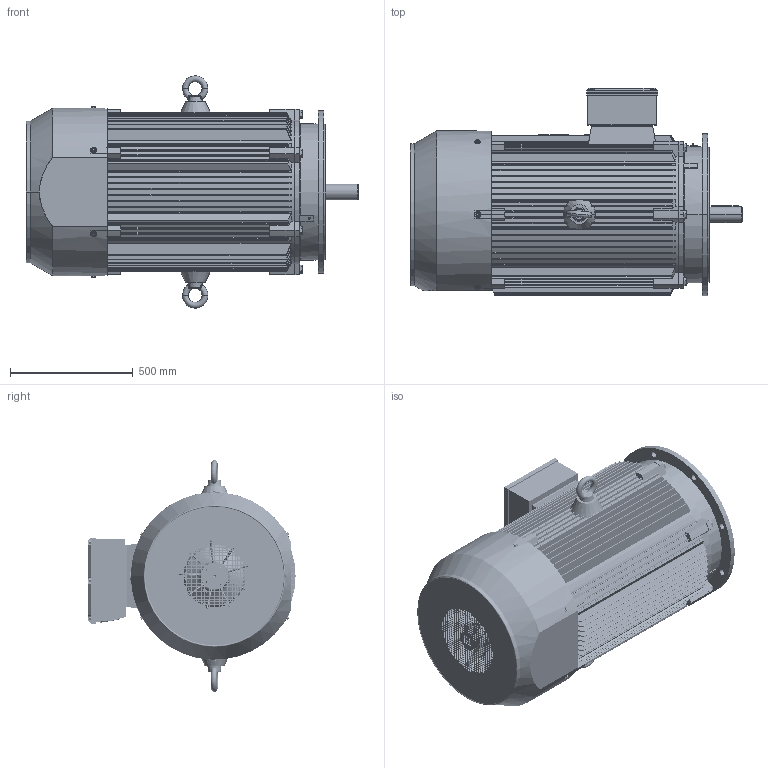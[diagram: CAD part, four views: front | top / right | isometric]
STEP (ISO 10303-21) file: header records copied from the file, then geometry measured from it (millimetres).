
FILE_DESCRIPTION (( 'STEP AP203' ), '1' );
FILE_NAME ('TC 315M-L-2 B5 俋倛芞.STEP', '2013-11-05T05:59:06', ( '123' ), ( 'top' ), 'SwSTEP 2.0', 'SolidWorks 2008', '' );
FILE_SCHEMA (( 'CONFIG_CONTROL_DESIGN' ));
Length unit declared in the file: millimetre
Products named in the file (23): 吊环M30_默认; ｷ釁ﾖﾂﾝｶ､ｼﾓｵ貳ｬ_ﾄｬﾈﾏ; 扣塞_默认; M10-25_默认; TE315-2轴承外盖_默认; 油封110-85-12_默认; TE315-2风罩_默认; TE315-2轴承内盖_默认; TC 315M-L-2 B5 俋倛芞; TC 315接线盒座_默认; TC 315接线盒盖_默认; M10-90_默认; TC 315-4风叶_默认; 铜油嘴_默认; M20-70_默认; M63螺塞_默认; TC 315铭牌_默认; TC 315L-2 轴_默认; TE315-2端盖_默认; TC 315L 机座 B5_默认; TE315-2端盖B5_默认; TX315接线盒座垫_默认; TX315接线盒座、盖垫_默认
Assembly tree (44 placements, depth 2):
  TC 315M-L-2 B5 俋倛芞
    TX315接线盒座、盖垫_默认
    M20-70_默认  x6
    ｷ釁ﾖﾂﾝｶ､ｼﾓｵ貳ｬ_ﾄｬﾈﾏ  x6
    TC 315-4风叶_默认
    M10-25_默认  x6
    油封110-85-12_默认
    TC 315铭牌_默认
    TC 315L 机座 B5_默认
    TE315-2端盖_默认
    铜油嘴_默认  x2
    扣塞_默认
    TE315-2轴承外盖_默认  x2
    TE315-2轴承内盖_默认
    TC 315接线盒盖_默认
    M10-90_默认  x4
    TX315接线盒座垫_默认
    TC 315接线盒座_默认
    TE315-2风罩_默认
    吊环M30_默认  x2
    TC 315L-2 轴_默认
    M63螺塞_默认  x2
    TE315-2端盖B5_默认
Bounding box: 1352 x 844 x 946 mm (x, y, z)
Volume: 60337373.3 mm3; surface area: 12522487.9 mm2
Topology: 46 solids, 46 shells, 7862 faces, 22271 edges, 14665 vertices
Faces by surface type: plane 3969, cylinder 3076, cone 460, torus 240, bspline 113, sphere 4
Entity records: 258874 total; most frequent: CARTESIAN_POINT 60045, ORIENTED_EDGE 41888, DIRECTION 40174, EDGE_CURVE 20944, VERTEX_POINT 13838, AXIS2_PLACEMENT_3D 13835, VECTOR 12504, LINE 12504
